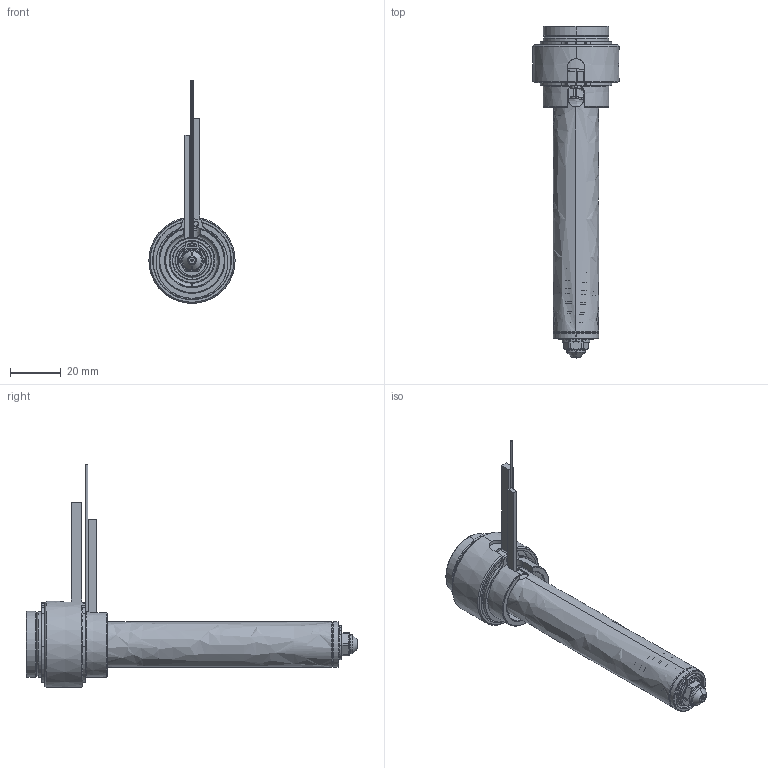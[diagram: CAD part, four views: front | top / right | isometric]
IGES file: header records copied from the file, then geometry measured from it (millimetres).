
Start section: SolidWorks IGES file using analytic representation for surfaces
Global section: file name: C:\Documents and Settings\ws-20\Desktop\TEM\UGER2504-S-A-1 [Øb-0.90 ØC-4.0].IGS; native system: SolidWorks 2012; preprocessor: SolidWorks 2012; author: ws-20; date: 120405.102138; units: millimetre
Bounding box: 34 x 130.9 x 87.9 mm (x, y, z)
Surface area: 22683.2 mm2 (no closed solid volume)
Topology: 0 solids, 0 shells, 194 faces, 2497 edges, 2497 vertices
Faces by surface type: revolution 123, bspline 71
